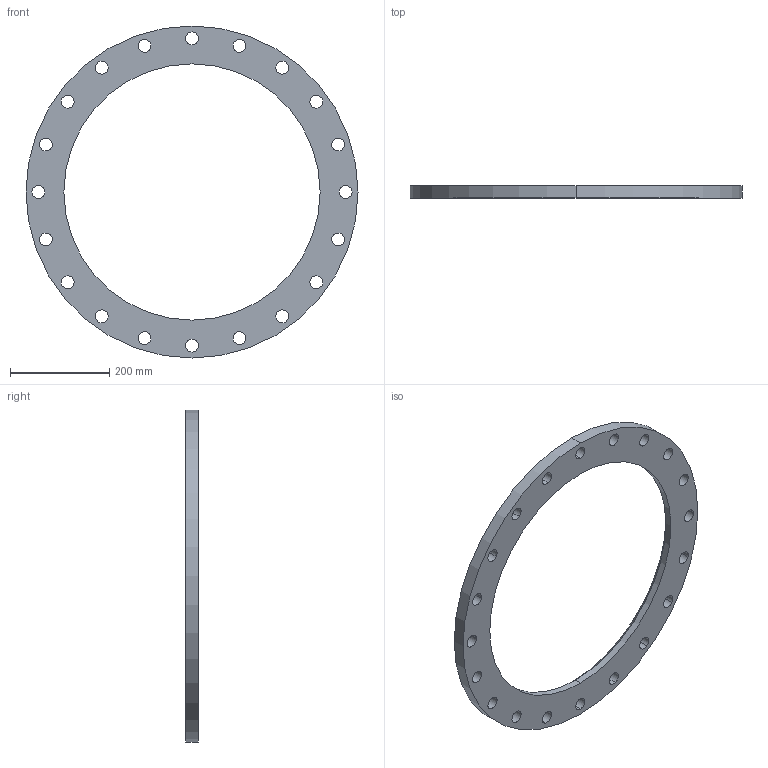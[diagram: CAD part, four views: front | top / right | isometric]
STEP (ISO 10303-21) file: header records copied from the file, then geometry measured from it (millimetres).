
FILE_DESCRIPTION (( 'STEP AP203' ), '1' );
FILE_NAME ('3D_R185_PN10_DN500_176641260_176642260.STEP', '2024-07-10T07:25:55', ( '' ), ( '' ), 'SwSTEP 2.0', 'SolidWorks 2024', '' );
FILE_SCHEMA (( 'CONFIG_CONTROL_DESIGN' ));
Length unit declared in the file: millimetre
Products named in the file (1): 3D_R185_PN10_DN500_176641260_176642260
Bounding box: 670 x 25 x 670 mm (x, y, z)
Volume: 3209712.6 mm3; surface area: 388257.6 mm2
Topology: 1 solids, 1 shells, 48 faces, 136 edges, 90 vertices
Faces by surface type: cylinder 44, cone 2, plane 2
Entity records: 1775 total; most frequent: DIRECTION 324, CARTESIAN_POINT 275, ORIENTED_EDGE 272, AXIS2_PLACEMENT_3D 139, EDGE_CURVE 136, VERTEX_POINT 90, EDGE_LOOP 90, CIRCLE 90
